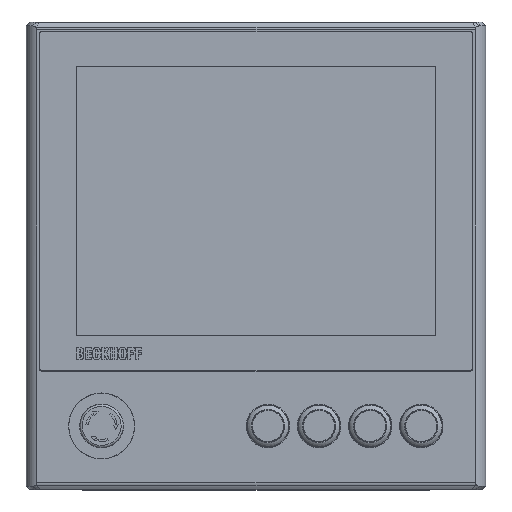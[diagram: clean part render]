
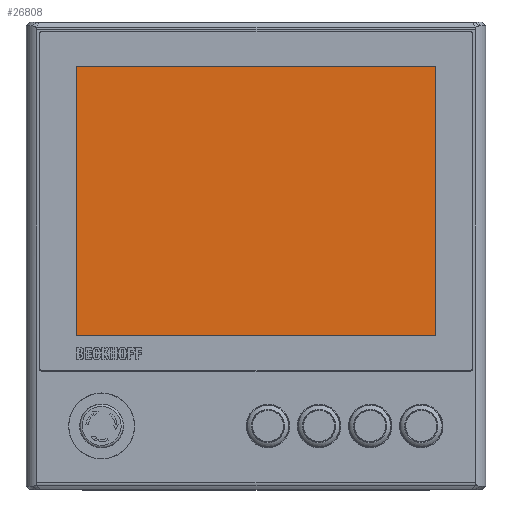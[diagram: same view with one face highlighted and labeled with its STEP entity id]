
A CAD part, top view. The second image highlights one B-rep face of the part: STEP entity #26808.
In plain terms, the highlighted planar face has unit normal (0, 0, 1).
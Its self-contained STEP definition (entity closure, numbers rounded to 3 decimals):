
#879=LINE('',#41570,#3260);
#880=LINE('',#41572,#3261);
#881=LINE('',#41574,#3262);
#882=LINE('',#41575,#3263);
#3260=VECTOR('',#32129,184.5);
#3261=VECTOR('',#32130,246.);
#3262=VECTOR('',#32131,184.5);
#3263=VECTOR('',#32132,246.);
#5589=PLANE('',#28598);
#7252=FACE_OUTER_BOUND('',#8892,.T.);
#8892=EDGE_LOOP('',(#18989,#18990,#18991,#18992));
#11661=VERTEX_POINT('',#41568);
#11662=VERTEX_POINT('',#41569);
#11663=VERTEX_POINT('',#41571);
#11664=VERTEX_POINT('',#41573);
#14444=EDGE_CURVE('',#11661,#11662,#879,.T.);
#14445=EDGE_CURVE('',#11663,#11661,#880,.T.);
#14446=EDGE_CURVE('',#11664,#11663,#881,.T.);
#14447=EDGE_CURVE('',#11662,#11664,#882,.T.);
#18989=ORIENTED_EDGE('',*,*,#14444,.F.);
#18990=ORIENTED_EDGE('',*,*,#14445,.F.);
#18991=ORIENTED_EDGE('',*,*,#14446,.F.);
#18992=ORIENTED_EDGE('',*,*,#14447,.F.);
#26808=ADVANCED_FACE('',(#7252),#5589,.T.);
#28598=AXIS2_PLACEMENT_3D('',#41567,#32127,#32128);
#32127=DIRECTION('center_axis',(0.,0.,
1.));
#32128=DIRECTION('ref_axis',(1.,0.,0.));
#32129=DIRECTION('',(0.,1.,0.));
#32130=DIRECTION('',(-1.,0.,0.));
#32131=DIRECTION('',(0.,-1.,0.));
#32132=DIRECTION('',(1.,0.,0.));
#41567=CARTESIAN_POINT('Origin',(0.,0.,
-127.402));
#41568=CARTESIAN_POINT('',(-123.,-92.25,-127.402));
#41569=CARTESIAN_POINT('',(-123.,92.25,-127.402));
#41570=CARTESIAN_POINT('',(-123.,-46.125,-127.402));
#41571=CARTESIAN_POINT('',(123.,-92.25,-127.402));
#41572=CARTESIAN_POINT('',(61.5,-92.25,-127.402));
#41573=CARTESIAN_POINT('',(123.,92.25,-127.402));
#41574=CARTESIAN_POINT('',(123.,46.125,-127.402));
#41575=CARTESIAN_POINT('',(-61.5,92.25,-127.402));
